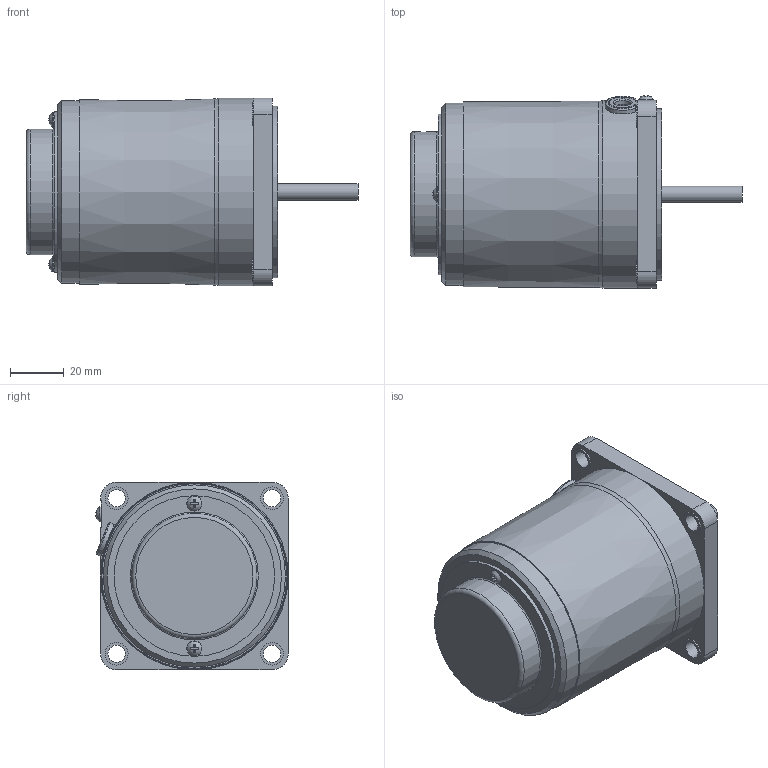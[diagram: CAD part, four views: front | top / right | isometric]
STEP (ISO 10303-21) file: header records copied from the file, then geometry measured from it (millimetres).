
FILE_DESCRIPTION(/* description */ (''),/* implementation_level */ '2;1');
FILE_NAME(/* name */ 'E:\도면작업\2016\0704) 미주향 SG 도면\3D MOTOR\SPEED CONTROL TYPE\SG7I(R)15S_-S12(24).stp',/* time_stamp */ '2017-08-21T10:56:11+09:00',/* author */ ('jy-jung'),/* organization */ (''),/* preprocessor_version */ 'ST-DEVELOPER v15.6',/* originating_system */ 'Autodesk Inventor 2015',/* authorisation */ '');
FILE_SCHEMA (('AUTOMOTIVE_DESIGN { 1 0 10303 214 3 1 1 }'));
Length unit declared in the file: millimetre
Products named in the file (1): 부품27
Bounding box: 123.8 x 71.76 x 70 mm (x, y, z)
Volume: 326950.7 mm3; surface area: 33356.2 mm2
Topology: 1 solids, 6 shells, 166 faces, 394 edges, 256 vertices
Faces by surface type: plane 104, cylinder 46, torus 10, bspline 3, cone 3
Full cylindrical faces by diameter (mm): 3 x2, 3.5 x2, 5 x1, 5.6 x3, 6 x2, 6.5 x4, 8.5 x4, 10 x1, 28 x1, 44.7 x1, 46.7 x1, 47.7 x1, 59.9 x1, 64 x1, 68 x1, 70 x1
Entity records: 5061 total; most frequent: CARTESIAN_POINT 1196, DIRECTION 736, ORIENTED_EDGE 702, EDGE_CURVE 351, AXIS2_PLACEMENT_3D 273, VERTEX_POINT 253, EDGE_LOOP 238, LINE 190
